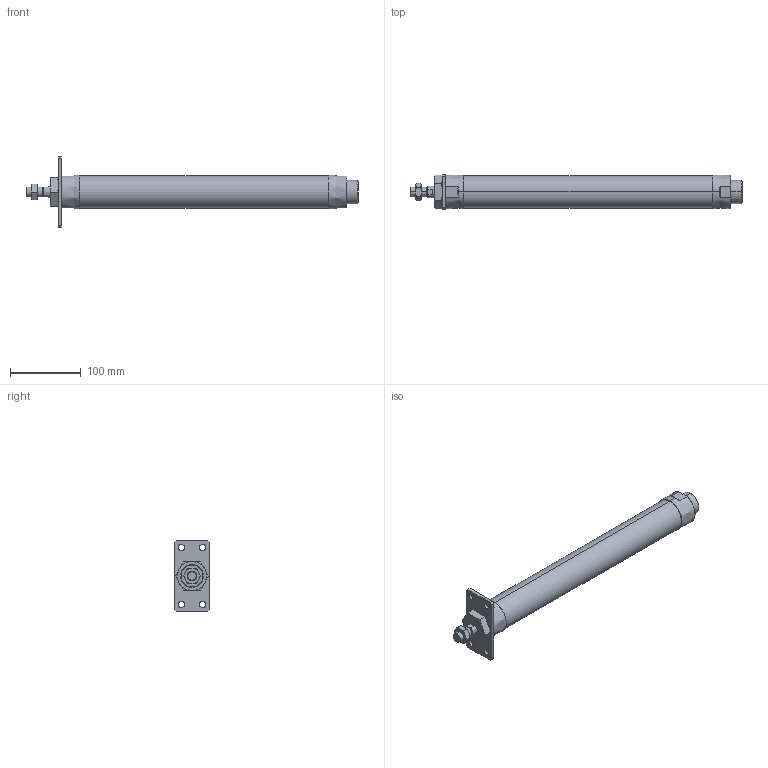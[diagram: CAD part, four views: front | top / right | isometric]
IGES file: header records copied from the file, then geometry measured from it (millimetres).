
Start section: SolidWorks IGES file using analytic representation for surfaces
Global section: file name: C:\Users\Toshiba\Desktop\J#2-40-300-A.IGS; native system: SolidWorks 2014; preprocessor: SolidWorks 2014; author: Toshiba; date: 160308.160903; units: millimetre
Bounding box: 469 x 50 x 100 mm (x, y, z)
Surface area: 83844.7 mm2 (no closed solid volume)
Topology: 0 solids, 0 shells, 114 faces, 2318 edges, 2314 vertices
Faces by surface type: bspline 67, revolution 47
